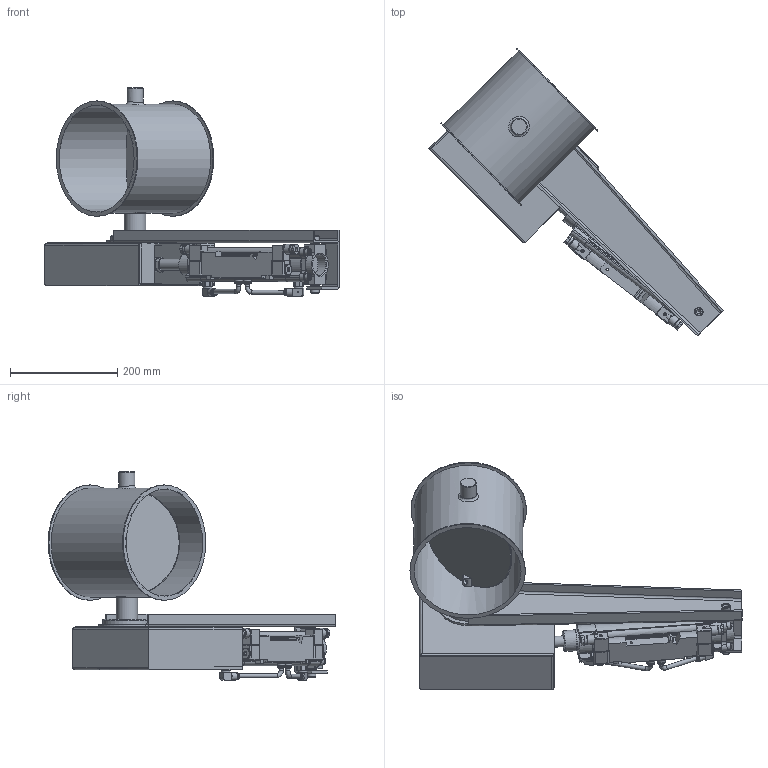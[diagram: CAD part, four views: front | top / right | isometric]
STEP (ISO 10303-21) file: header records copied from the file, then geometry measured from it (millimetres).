
FILE_DESCRIPTION((''),'2;1');
FILE_NAME('U:\Wolfgang\Marcel-3D\fertig\Kapitel 8\2021211.stp','2012-01-13T11:08:43',('iwienholt'),(''),'Autodesk Inventor 2010','Autodesk Inventor 2010','');
FILE_SCHEMA(('AUTOMOTIVE_DESIGN { 1 0 10303 214 1 1 1 1 }'));
Length unit declared in the file: millimetre
Products named in the file (33): 2021211; BuchseD20 90-50; Bolzen D20; Scheibe200b; F1 Zylindereinheit d20; 4527_MSFG_24_42_50_60_6_0; 4527_MSFG_24_42_50_60_6_01; 4527_MSFG_24_42_50_60_6_02; 537600_VUVB_S_B42_ZD_Q8_3AC1_6_0; 537600_VUVB_S_B42_ZD_Q8_3AC1_6_01; 537600_VUVB_S_B42_ZD_Q8_3AC1_6_02; 537600_VUVB_S_B42_ZD_Q8_3AC1_6_03; 153414_QSRL_1_4_8_6_0; schlauch; Schutzkasten; Kasten-a; Kasten-b; 532756_DNCB_50_160_PPV_A_6_0; 532756_DNCB_50_160_PPV_A_6_01; 532756_DNCB_50_160_PPV_A_6_02; 6146_SG_M16x15_6_0; 6146_SG_M16x15_6_01; 6146_SG_M16x15_6_02; 174413_ZNCF_50_6_0; 174413_ZNCF_50_6_01; 174413_ZNCF_50_6_02; 174413_ZNCF_50_6_03; 174413_ZNCF_50_6_04; 174413_ZNCF_50_6_05; 0021088 d20; Strebe d20; Bolzen20; 2021211-1
Assembly tree (36 placements, depth 4):
  2021211
    BuchseD20 90-50
    Bolzen D20  x2
    Scheibe200b
    F1 Zylindereinheit d20
      4527_MSFG_24_42_50_60_6_0  x2
        4527_MSFG_24_42_50_60_6_01
        4527_MSFG_24_42_50_60_6_02
      537600_VUVB_S_B42_ZD_Q8_3AC1_6_0
        537600_VUVB_S_B42_ZD_Q8_3AC1_6_01
        537600_VUVB_S_B42_ZD_Q8_3AC1_6_02
        537600_VUVB_S_B42_ZD_Q8_3AC1_6_03
      153414_QSRL_1_4_8_6_0  x2
      schlauch  x2
      Schutzkasten
        Kasten-a
        Kasten-b
      532756_DNCB_50_160_PPV_A_6_0
        532756_DNCB_50_160_PPV_A_6_01
        532756_DNCB_50_160_PPV_A_6_02
      6146_SG_M16x15_6_0
        6146_SG_M16x15_6_01
        6146_SG_M16x15_6_02
      174413_ZNCF_50_6_0
        174413_ZNCF_50_6_01
        174413_ZNCF_50_6_02
        174413_ZNCF_50_6_03
        174413_ZNCF_50_6_04
        174413_ZNCF_50_6_05
      0021088 d20
      Strebe d20
      Bolzen20
    2021211-1
Bounding box: 548.01 x 536.03 x 388.27 mm (x, y, z)
Volume: 2141055.7 mm3; surface area: 1073633.5 mm2
Topology: 30 solids, 30 shells, 2512 faces, 6754 edges, 4415 vertices
Faces by surface type: plane 1899, cylinder 428, cone 146, bspline 27, torus 10, sphere 2
Full cylindrical faces by diameter (mm): 1 x6, 2.459 x2, 3 x4, 3.5 x2, 4 x2, 4.5 x1, 5 x4, 5.471 x2, 5.5 x2, 6 x16, 6.647 x8, 7.188 x2, 8 x22, 8.05 x2, 9 x6, 9.6 x2, 10 x2, 10.15 x2, 11.445 x2, 12 x2, 13 x4, 13.05 x2, 13.157 x2, 13.346 x1, 14 x6, 14.376 x2, 14.4 x4, 14.5 x2, 14.7 x6, 15.1 x2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
Entity records: 72325 total; most frequent: CARTESIAN_POINT 13890, ORIENTED_EDGE 11696, DIRECTION 11222, EDGE_CURVE 5848, VECTOR 4784, LINE 4784, VERTEX_POINT 3964, EDGE_LOOP 3244
